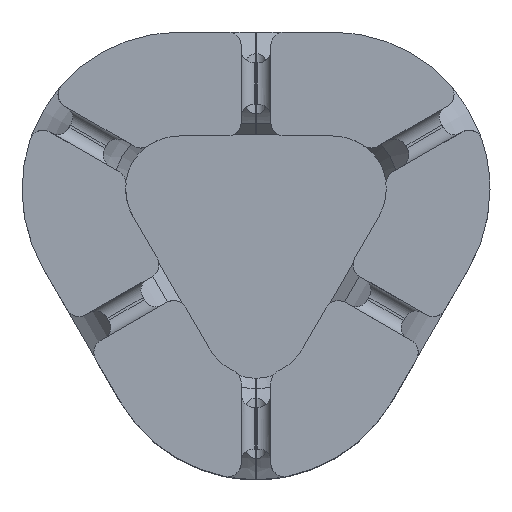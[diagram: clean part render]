
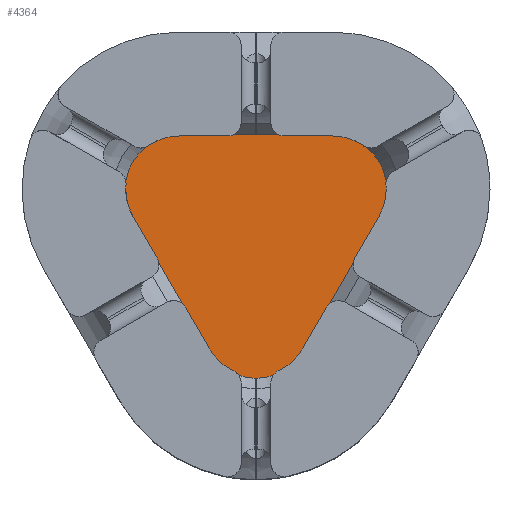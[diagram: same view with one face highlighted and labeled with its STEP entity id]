
A CAD part, top view. The second image highlights one B-rep face of the part: STEP entity #4364.
In plain terms, the highlighted planar face has unit normal (0, 0, 1).
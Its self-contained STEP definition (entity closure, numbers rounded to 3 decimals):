
#121 = DIRECTION ( 'NONE',  ( -1., 0., 0. ) ) ;
#216 = AXIS2_PLACEMENT_3D ( 'NONE', #5325, #4724, #1568 ) ;
#264 = LINE ( 'NONE', #3032, #3801 ) ;
#279 = VECTOR ( 'NONE', #6121, 1000. ) ;
#337 = EDGE_LOOP ( 'NONE', ( #4025, #3183, #4302, #4779, #2849, #761, #6683, #5027, #5936, #990, #6137, #2425, #2840, #2947, #1945 ) ) ;
#346 = CARTESIAN_POINT ( 'NONE',  ( -4., 23.696, 0.4 ) ) ;
#357 = VECTOR ( 'NONE', #6577, 1000. ) ;
#558 = VERTEX_POINT ( 'NONE', #346 ) ;
#563 = VERTEX_POINT ( 'NONE', #3971 ) ;
#584 = AXIS2_PLACEMENT_3D ( 'NONE', #5052, #4758, #121 ) ;
#606 = LINE ( 'NONE', #5037, #3153 ) ;
#664 = LINE ( 'NONE', #739, #5273 ) ;
#739 = CARTESIAN_POINT ( 'NONE',  ( -9., 11.572, 0.4 ) ) ;
#761 = ORIENTED_EDGE ( 'NONE', *, *, #4529, .T. ) ;
#773 = AXIS2_PLACEMENT_3D ( 'NONE', #4191, #3134, #3590 ) ;
#905 = VERTEX_POINT ( 'NONE', #2291 ) ;
#908 = LINE ( 'NONE', #2950, #3373 ) ;
#920 = CARTESIAN_POINT ( 'NONE',  ( 10.022, -5.786, 0.4 ) ) ;
#990 = ORIENTED_EDGE ( 'NONE', *, *, #6292, .T. ) ;
#1015 = EDGE_CURVE ( 'NONE', #1394, #5571, #4548, .T. ) ;
#1040 = CARTESIAN_POINT ( 'NONE',  ( -9., 5.196, 0.4 ) ) ;
#1077 = FACE_OUTER_BOUND ( 'NONE', #337, .T. ) ;
#1097 = EDGE_CURVE ( 'NONE', #6204, #5341, #2804, .T. ) ;
#1113 = AXIS2_PLACEMENT_3D ( 'NONE', #1040, #2584, #6239 ) ;
#1121 = CARTESIAN_POINT ( 'NONE',  ( -4., -15.358, 0.4 ) ) ;
#1370 = PLANE ( 'NONE',  #584 ) ;
#1394 = VERTEX_POINT ( 'NONE', #1719 ) ;
#1425 = CARTESIAN_POINT ( 'NONE',  ( 9., 5.196, 0.4 ) ) ;
#1564 = AXIS2_PLACEMENT_3D ( 'NONE', #4202, #2600, #6750 ) ;
#1568 = DIRECTION ( 'NONE',  ( -1., 0., 0. ) ) ;
#1579 = DIRECTION ( 'NONE',  ( 0., 1., 0. ) ) ;
#1673 = VERTEX_POINT ( 'NONE', #5172 ) ;
#1680 = EDGE_CURVE ( 'NONE', #563, #4439, #2248, .T. ) ;
#1719 = CARTESIAN_POINT ( 'NONE',  ( 5.522, -13.58, 0.4 ) ) ;
#1840 = CIRCLE ( 'NONE', #2246, 18.5 ) ;
#1903 = DIRECTION ( 'NONE',  ( 0., 1., 0. ) ) ;
#1945 = ORIENTED_EDGE ( 'NONE', *, *, #6641, .F. ) ;
#2082 = VECTOR ( 'NONE', #1579, 1000. ) ;
#2176 = EDGE_CURVE ( 'NONE', #5571, #6204, #6246, .T. ) ;
#2206 = DIRECTION ( 'NONE',  ( -1., 0., 0. ) ) ;
#2246 = AXIS2_PLACEMENT_3D ( 'NONE', #3001, #2523, #3570 ) ;
#2248 = LINE ( 'NONE', #2424, #6258 ) ;
#2291 = CARTESIAN_POINT ( 'NONE',  ( -4., 11.572, 0.4 ) ) ;
#2327 = EDGE_CURVE ( 'NONE', #4009, #4453, #6395, .T. ) ;
#2424 = CARTESIAN_POINT ( 'NONE',  ( 4., -28.892, 0.4 ) ) ;
#2425 = ORIENTED_EDGE ( 'NONE', *, *, #3415, .T. ) ;
#2523 = DIRECTION ( 'NONE',  ( 0., 0., -1. ) ) ;
#2584 = DIRECTION ( 'NONE',  ( 0., 0., 1. ) ) ;
#2600 = DIRECTION ( 'NONE',  ( 0., 0., 1. ) ) ;
#2772 = CARTESIAN_POINT ( 'NONE',  ( -14.522, 2.008, 0.4 ) ) ;
#2804 = CIRCLE ( 'NONE', #773, 6.376 ) ;
#2825 = EDGE_CURVE ( 'NONE', #3934, #4944, #606, .T. ) ;
#2829 = CARTESIAN_POINT ( 'NONE',  ( 4., -28.455, 0.4 ) ) ;
#2840 = ORIENTED_EDGE ( 'NONE', *, *, #4297, .T. ) ;
#2849 = ORIENTED_EDGE ( 'NONE', *, *, #1097, .T. ) ;
#2947 = ORIENTED_EDGE ( 'NONE', *, *, #2825, .F. ) ;
#2950 = CARTESIAN_POINT ( 'NONE',  ( -9., 11.572, 0.4 ) ) ;
#2992 = EDGE_CURVE ( 'NONE', #4453, #1394, #6390, .T. ) ;
#3001 = CARTESIAN_POINT ( 'NONE',  ( 0., -10.392, 0.4 ) ) ;
#3032 = CARTESIAN_POINT ( 'NONE',  ( -9., 23.696, 0.4 ) ) ;
#3134 = DIRECTION ( 'NONE',  ( 0., 0., 1. ) ) ;
#3153 = VECTOR ( 'NONE', #1903, 1000. ) ;
#3183 = ORIENTED_EDGE ( 'NONE', *, *, #2992, .T. ) ;
#3338 = CARTESIAN_POINT ( 'NONE',  ( 15.376, 5.196, 0.4 ) ) ;
#3373 = VECTOR ( 'NONE', #4604, 1000. ) ;
#3397 = LINE ( 'NONE', #5100, #279 ) ;
#3415 = EDGE_CURVE ( 'NONE', #6118, #3976, #3397, .T. ) ;
#3471 = EDGE_CURVE ( 'NONE', #1673, #6118, #5613, .T. ) ;
#3550 = AXIS2_PLACEMENT_3D ( 'NONE', #1425, #5442, #5073 ) ;
#3570 = DIRECTION ( 'NONE',  ( -1., 0., 0. ) ) ;
#3590 = DIRECTION ( 'NONE',  ( -1., 0., 0. ) ) ;
#3695 = CARTESIAN_POINT ( 'NONE',  ( 4., -28.892, 0.4 ) ) ;
#3749 = CARTESIAN_POINT ( 'NONE',  ( 14.522, 2.008, 0.4 ) ) ;
#3801 = VECTOR ( 'NONE', #5224, 1000. ) ;
#3934 = VERTEX_POINT ( 'NONE', #4079 ) ;
#3971 = CARTESIAN_POINT ( 'NONE',  ( 4., 11.572, 0.4 ) ) ;
#3976 = VERTEX_POINT ( 'NONE', #4555 ) ;
#4009 = VERTEX_POINT ( 'NONE', #2829 ) ;
#4025 = ORIENTED_EDGE ( 'NONE', *, *, #2327, .T. ) ;
#4033 = LINE ( 'NONE', #6243, #6138 ) ;
#4047 = EDGE_CURVE ( 'NONE', #905, #558, #4033, .T. ) ;
#4079 = CARTESIAN_POINT ( 'NONE',  ( -4., -28.455, 0.4 ) ) ;
#4191 = CARTESIAN_POINT ( 'NONE',  ( 9., 5.196, 0.4 ) ) ;
#4202 = CARTESIAN_POINT ( 'NONE',  ( 0., -10.392, 0.4 ) ) ;
#4297 = EDGE_CURVE ( 'NONE', #3976, #4944, #4526, .T. ) ;
#4302 = ORIENTED_EDGE ( 'NONE', *, *, #1015, .T. ) ;
#4364 = ADVANCED_FACE ( 'NONE', ( #1077 ), #1370, .F. ) ;
#4439 = VERTEX_POINT ( 'NONE', #5844 ) ;
#4453 = VERTEX_POINT ( 'NONE', #4769 ) ;
#4526 = CIRCLE ( 'NONE', #1564, 6.376 ) ;
#4529 = EDGE_CURVE ( 'NONE', #5341, #563, #664, .T. ) ;
#4541 = DIRECTION ( 'NONE',  ( 0., 1., 0. ) ) ;
#4548 = LINE ( 'NONE', #920, #357 ) ;
#4555 = CARTESIAN_POINT ( 'NONE',  ( -5.522, -13.58, 0.4 ) ) ;
#4572 = CARTESIAN_POINT ( 'NONE',  ( 9., 11.572, 0.4 ) ) ;
#4604 = DIRECTION ( 'NONE',  ( -1., 0., 0. ) ) ;
#4724 = DIRECTION ( 'NONE',  ( 0., 0., 1. ) ) ;
#4758 = DIRECTION ( 'NONE',  ( 0., 0., -1. ) ) ;
#4769 = CARTESIAN_POINT ( 'NONE',  ( 4., -15.358, 0.4 ) ) ;
#4779 = ORIENTED_EDGE ( 'NONE', *, *, #2176, .T. ) ;
#4944 = VERTEX_POINT ( 'NONE', #1121 ) ;
#5027 = ORIENTED_EDGE ( 'NONE', *, *, #5875, .T. ) ;
#5037 = CARTESIAN_POINT ( 'NONE',  ( -4., -28.892, 0.4 ) ) ;
#5052 = CARTESIAN_POINT ( 'NONE',  ( -9., 5.196, 0.4 ) ) ;
#5073 = DIRECTION ( 'NONE',  ( -1., 0., 0. ) ) ;
#5100 = CARTESIAN_POINT ( 'NONE',  ( -14.522, 2.008, 0.4 ) ) ;
#5172 = CARTESIAN_POINT ( 'NONE',  ( -9., 11.572, 0.4 ) ) ;
#5224 = DIRECTION ( 'NONE',  ( -1., 0., 0. ) ) ;
#5252 = DIRECTION ( 'NONE',  ( 0., 1., 0. ) ) ;
#5273 = VECTOR ( 'NONE', #2206, 1000. ) ;
#5325 = CARTESIAN_POINT ( 'NONE',  ( 0., -10.392, 0.4 ) ) ;
#5341 = VERTEX_POINT ( 'NONE', #4572 ) ;
#5442 = DIRECTION ( 'NONE',  ( 0., 0., 1. ) ) ;
#5571 = VERTEX_POINT ( 'NONE', #3749 ) ;
#5613 = CIRCLE ( 'NONE', #1113, 6.376 ) ;
#5844 = CARTESIAN_POINT ( 'NONE',  ( 4., 23.696, 0.4 ) ) ;
#5875 = EDGE_CURVE ( 'NONE', #4439, #558, #264, .T. ) ;
#5936 = ORIENTED_EDGE ( 'NONE', *, *, #4047, .F. ) ;
#6118 = VERTEX_POINT ( 'NONE', #2772 ) ;
#6121 = DIRECTION ( 'NONE',  ( 0.5, -0.866, 0. ) ) ;
#6137 = ORIENTED_EDGE ( 'NONE', *, *, #3471, .T. ) ;
#6138 = VECTOR ( 'NONE', #5252, 1000. ) ;
#6204 = VERTEX_POINT ( 'NONE', #3338 ) ;
#6239 = DIRECTION ( 'NONE',  ( -1., 0., 0. ) ) ;
#6243 = CARTESIAN_POINT ( 'NONE',  ( -4., -28.892, 0.4 ) ) ;
#6246 = CIRCLE ( 'NONE', #3550, 6.376 ) ;
#6258 = VECTOR ( 'NONE', #4541, 1000. ) ;
#6292 = EDGE_CURVE ( 'NONE', #905, #1673, #908, .T. ) ;
#6390 = CIRCLE ( 'NONE', #216, 6.376 ) ;
#6395 = LINE ( 'NONE', #3695, #2082 ) ;
#6577 = DIRECTION ( 'NONE',  ( 0.5, 0.866, 0. ) ) ;
#6641 = EDGE_CURVE ( 'NONE', #4009, #3934, #1840, .T. ) ;
#6683 = ORIENTED_EDGE ( 'NONE', *, *, #1680, .T. ) ;
#6750 = DIRECTION ( 'NONE',  ( -1., 0., 0. ) ) ;
